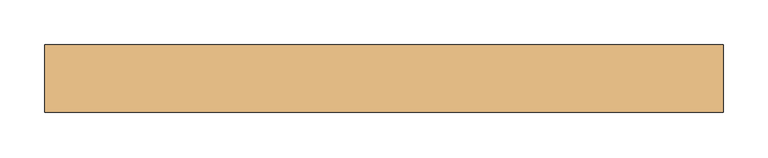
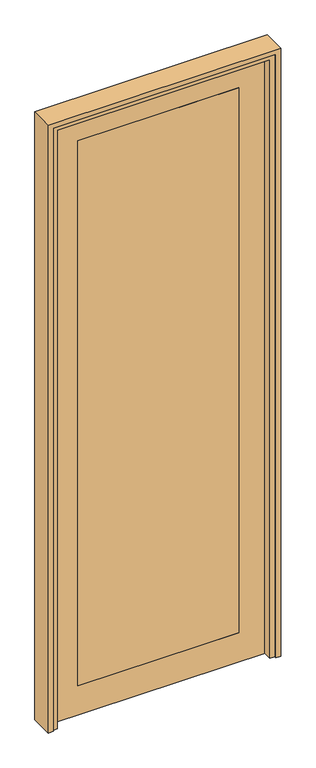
"""IFC4 building model written with IfcOpenShell, lengths in millimetres: door geometry, VERTI ELEMENT - dveřní panel : ELEMENT - dveřní panel."""

from ifc_helpers import new_model, si_unit, frame, origin, place, context, project, spatial, polyline, outline, extrude, faceted_brep, source, transform, mapped, element, save


def door_b20d62d0(model_context):
    return source(origin(), model_context, "Body", "SolidModel", [
        extrude(outline(polyline([(261.5, 37.5), (261.5, 32.5), (-261.5, 32.5), (-261.5, 37.5), (261.5, 37.5)])), frame((0.0, 0.0, 100.0), z_axis=(0.0, 0.0, 1.0), x_axis=(1.0, 0.0, 0.0)), (0.0, 0.0, 1.0), 1871.5),
        extrude(outline(polyline([(261.5, -2.5), (-261.5, -2.5), (-261.5, 2.5), (261.5, 2.5), (261.5, -2.5)])), frame((0.0, 0.0, 100.0), z_axis=(0.0, 0.0, 1.0), x_axis=(1.0, 0.0, 0.0)), (0.0, 0.0, 1.0), 1871.5),
        extrude(outline(polyline([(2071.5, 361.5), (2071.5, -361.5), (0.0, -361.5), (0.0, 361.5), (2071.5, 361.5)]), holes=[polyline([(100.0, 261.5), (100.0, -261.5), (1971.5, -261.5), (1971.5, 261.5), (100.0, 261.5)])]), frame((0.0, -2.5, 0.0), z_axis=(0.0, 1.0, 0.0), x_axis=(0.0, 0.0, 1.0)), (0.0, 0.0, 1.0), 40.0),
        faceted_brep([(-361.5, -37.5, 0.0), (-377.5, -37.5, 0.0), (-377.5, 37.5, 0.0), (-361.5, 37.5, 0.0), (-361.5, -2.5, 0.0), (-345.5, -2.5, 0.0), (-345.5, -32.5, 0.0), (-361.5, -32.5, 0.0), (-361.5, -37.5, 2071.5), (361.5, -37.5, 2071.5), (361.5, -37.5, 0.0), (377.5, -37.5, 0.0), (377.5, -37.5, 2087.5), (-377.5, -37.5, 2087.5), (-377.5, 37.5, 2087.5), (377.5, 37.5, 2087.5), (377.5, 37.5, 0.0), (361.5, 37.5, 0.0), (361.5, 37.5, 2071.5), (-361.5, 37.5, 2071.5), (-361.5, -2.5, 2071.5), (361.5, -2.5, 2071.5), (361.5, -2.5, 0.0), (345.5, -2.5, 0.0), (345.5, -2.5, 2055.5), (-345.5, -2.5, 2055.5), (-345.5, -32.5, 2055.5), (345.5, -32.5, 2055.5), (345.5, -32.5, 0.0), (361.5, -32.5, 0.0), (361.5, -32.5, 2071.5), (-361.5, -32.5, 2071.5)], [[[0, 1, 2, 3, 4, 5, 6, 7]], [[1, 0, 8, 9, 10, 11, 12, 13]], [[2, 1, 13, 14]], [[3, 2, 14, 15, 16, 17, 18, 19]], [[4, 3, 19, 20]], [[5, 4, 20, 21, 22, 23, 24, 25]], [[6, 5, 25, 26]], [[7, 6, 26, 27, 28, 29, 30, 31]], [[0, 7, 31, 8]], [[9, 30, 29, 10]], [[10, 29, 28, 23, 22, 17, 16, 11]], [[15, 12, 11, 16]], [[21, 18, 17, 22]], [[27, 24, 23, 28]], [[8, 31, 30, 9]], [[14, 13, 12, 15]], [[20, 19, 18, 21]], [[26, 25, 24, 27]]]),
    ])


if __name__ == "__main__":
    model = new_model("IFC4")
    model_context = context("Model", 3, world=origin())
    ifc_project = project(units=[si_unit("LENGTHUNIT", "METRE", prefix="MILLI")], contexts=[model_context])
    site = spatial("IfcSite", under=ifc_project)
    building = spatial("IfcBuilding", under=site)
    placement = place(None, origin())
    door_shape = door_b20d62d0(model_context)
    element("IfcDoor", 1, ObjectType="VERTI ELEMENT - dveřní panel : ELEMENT - dveřní panel", at=placement, inside=building, context=model_context, shape_type="MappedRepresentation", body=[
        mapped(door_shape, transform((0.0, 0.0, 0.0), x_axis=(1.0, 0.0, 0.0), y_axis=(0.0, 1.0, 0.0), z_axis=(0.0, 0.0, 1.0))),
    ])
    save(model, "model.ifc")
